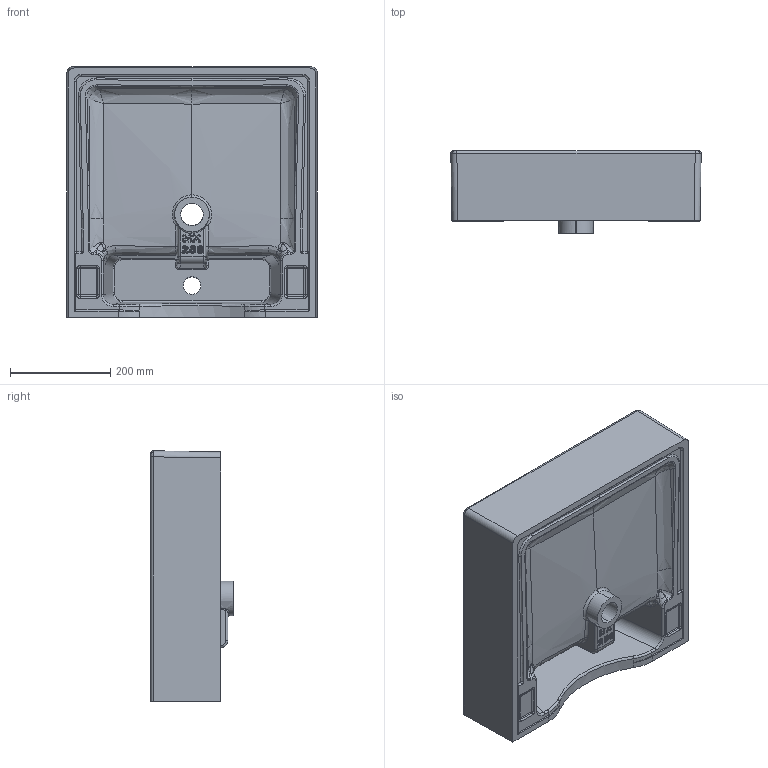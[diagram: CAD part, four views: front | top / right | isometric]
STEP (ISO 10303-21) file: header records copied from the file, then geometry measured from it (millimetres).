
FILE_DESCRIPTION (( 'STEP AP203' ), '1' );
FILE_NAME ('NX256 MODEL.STEP', '2022-04-06T06:33:18', ( '' ), ( '' ), 'SwSTEP 2.0', 'SolidWorks 2021', '' );
FILE_SCHEMA (( 'CONFIG_CONTROL_DESIGN' ));
Products named in the file (1): NX256 MODEL
Bounding box: 499.8 x 165 x 499.9 mm (x, y, z)
Volume: 10801957.9 mm3; surface area: 1022439.5 mm2
Topology: 2 solids, 2 shells, 664 faces, 1585 edges, 890 vertices
Faces by surface type: bspline 370, cylinder 172, plane 80, sphere 32, torus 8, cone 2
Entity records: 49954 total; most frequent: CARTESIAN_POINT 37581, ORIENTED_EDGE 3086, DIRECTION 1869, EDGE_CURVE 1543, VERTEX_POINT 890, AXIS2_PLACEMENT_3D 754, EDGE_LOOP 677, FACE_OUTER_BOUND 664
